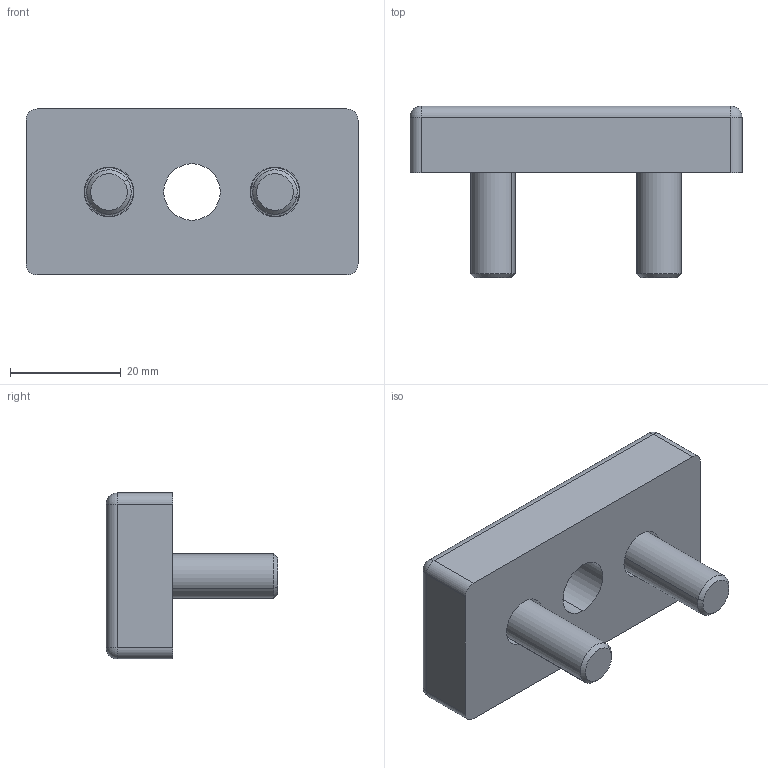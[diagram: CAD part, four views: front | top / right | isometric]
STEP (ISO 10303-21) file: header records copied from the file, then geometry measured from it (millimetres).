
FILE_DESCRIPTION (( 'STEP AP214' ), '1' );
FILE_NAME ('1.5003 Kierrelevy 30x60 M12.STEP', '2026-03-30T05:43:49', ( '' ), ( '' ), 'SwSTEP 2.0', 'SolidWorks 2025', '' );
FILE_SCHEMA (( 'AUTOMOTIVE_DESIGN' ));
Length unit declared in the file: millimetre
Products named in the file (1): 1.5003 Kierrelevy 30x60 M12
Bounding box: 60 x 31 x 30 mm (x, y, z)
Volume: 21313.8 mm3; surface area: 8674.5 mm2
Topology: 3 solids, 3 shells, 86 faces, 190 edges, 108 vertices
Faces by surface type: plane 38, cylinder 26, cone 10, torus 8, sphere 4
Entity records: 2939 total; most frequent: DIRECTION 442, CARTESIAN_POINT 377, ORIENTED_EDGE 364, EDGE_CURVE 182, AXIS2_PLACEMENT_3D 173, VERTEX_POINT 108, EDGE_LOOP 98, VECTOR 96
